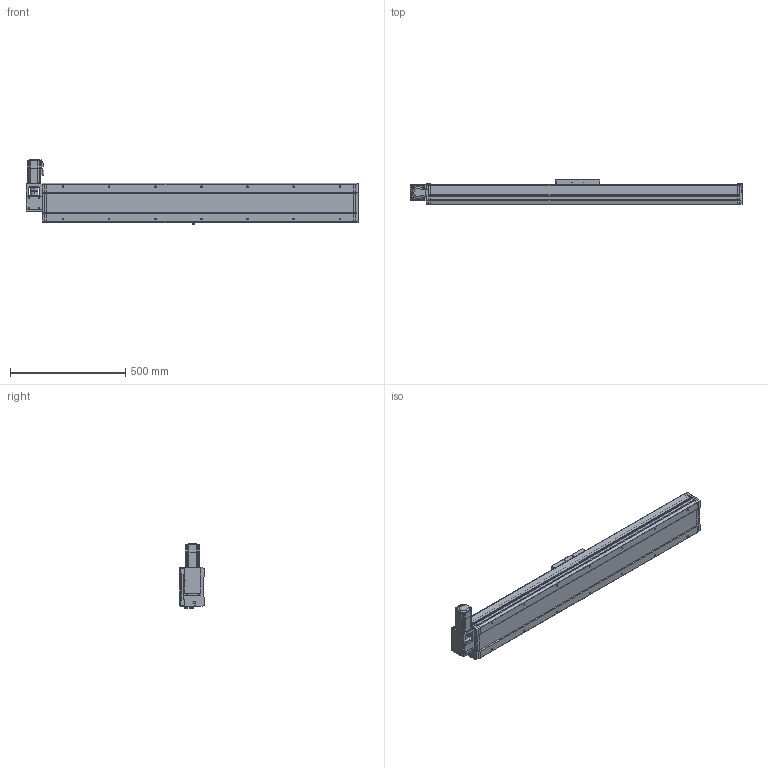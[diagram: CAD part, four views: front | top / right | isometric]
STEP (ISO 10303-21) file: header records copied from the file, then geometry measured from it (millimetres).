
FILE_DESCRIPTION((''),'2;1');
FILE_NAME('170-TZJ3FL-S1050_ASM','2015-12-04T',('lenovo'),(''),'PRO/ENGINEER BY PARAMETRIC TECHNOLOGY CORPORATION, 2010280','PRO/ENGINEER BY PARAMETRIC TECHNOLOGY CORPORATION, 2010280','');
FILE_SCHEMA(('CONFIG_CONTROL_DESIGN'));
Length unit declared in the file: millimetre
Products named in the file (5): 170-TJFL-DZ; 170-HK; 170-HDB-01; 170-TZJ3FL-DJZ; 170-TZJ3FL-S1050_ASM
Assembly tree (4 placements, depth 2):
  170-TZJ3FL-S1050_ASM
    170-TJFL-DZ
    170-HK
    170-HDB-01
    170-TZJ3FL-DJZ
Bounding box: 1439 x 107 x 278.5 mm (x, y, z)
Volume: 10739668.3 mm3; surface area: 1633415.6 mm2
Topology: 6 solids, 30 shells, 1486 faces, 4033 edges, 2689 vertices
Faces by surface type: plane 794, cylinder 551, cone 113, torus 28
Entity records: 47579 total; most frequent: CARTESIAN_POINT 8491, DIRECTION 8356, ORIENTED_EDGE 8066, EDGE_CURVE 4033, AXIS2_PLACEMENT_3D 2870, VERTEX_POINT 2689, VECTOR 2616, LINE 2616
